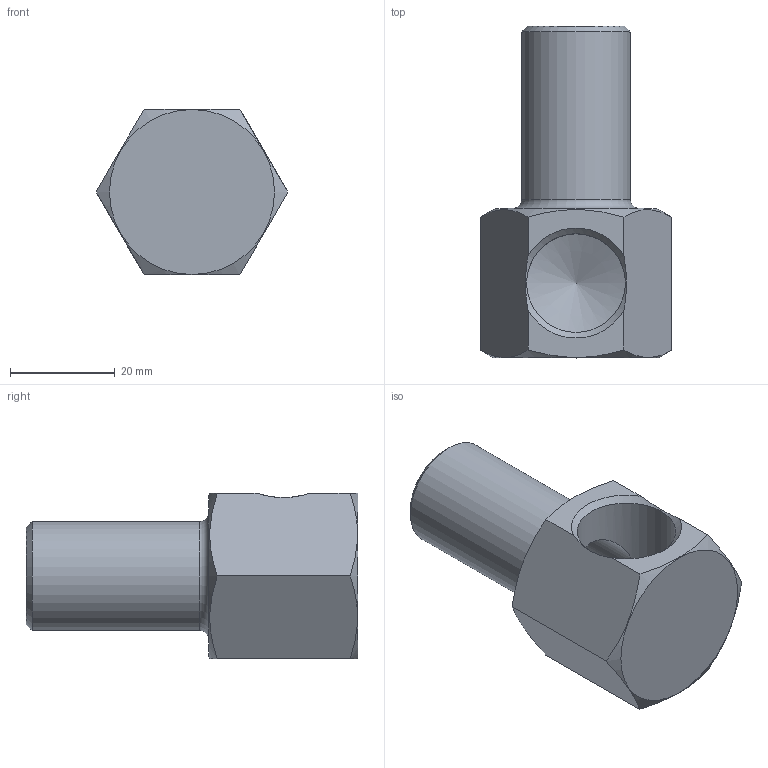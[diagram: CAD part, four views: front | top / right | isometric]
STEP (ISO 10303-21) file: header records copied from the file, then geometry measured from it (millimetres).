
FILE_DESCRIPTION(/* description */ (''),/* implementation_level */ '2;1');
FILE_NAME(/* name */ 'C:/Users/drich/Desktop/50B-2-1_2 v1.step',/* time_stamp */ '2019-12-29T15:25:41-06:00',/* author */ (''),/* organization */ (''),/* preprocessor_version */ 'ST-DEVELOPER v18',/* originating_system */ 'Autodesk Translation Framework v8.12.0.6',/* authorisation */ '');
FILE_SCHEMA (('AUTOMOTIVE_DESIGN { 1 0 10303 214 3 1 1 }'));
Length unit declared in the file: inch
Products named in the file (1): 50B-2-1_2
Bounding box: 36.66 x 63.5 x 31.75 mm (x, y, z)
Volume: 22428.8 mm3; surface area: 9942.9 mm2
Topology: 1 solids, 1 shells, 20 faces, 53 edges, 35 vertices
Faces by surface type: plane 10, cone 6, cylinder 3, torus 1
Full cylindrical faces by diameter (mm): 15.062 x1, 18.901 x1, 20.813 x1
Entity records: 687 total; most frequent: CARTESIAN_POINT 184, ORIENTED_EDGE 104, DIRECTION 91, EDGE_CURVE 52, AXIS2_PLACEMENT_3D 37, VERTEX_POINT 35, EDGE_LOOP 23, FACE_OUTER_BOUND 20
